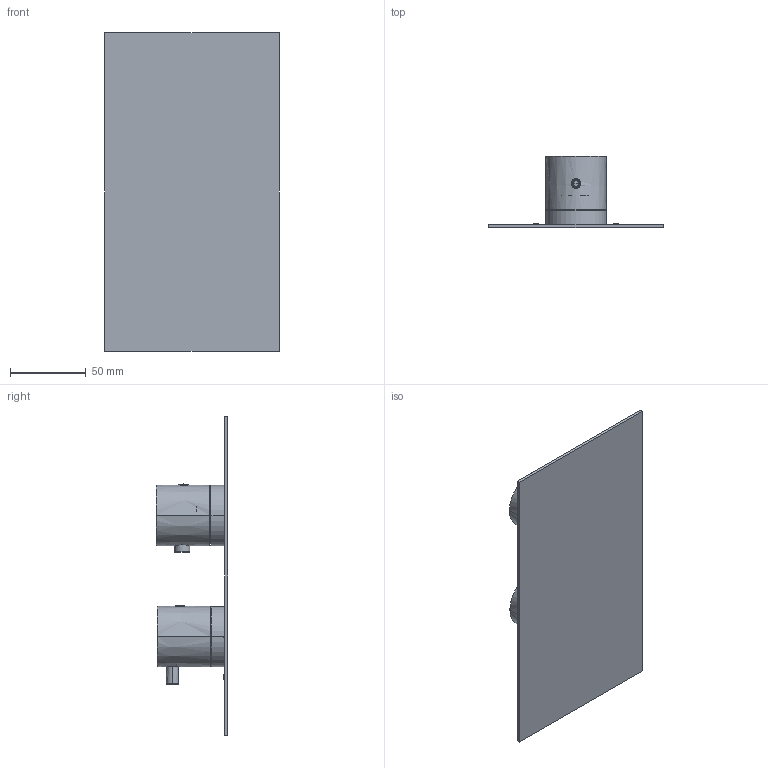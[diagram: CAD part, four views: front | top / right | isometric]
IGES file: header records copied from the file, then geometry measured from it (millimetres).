
Start section:  PTC IGES file: 69712v2.igs
Global section: file name: 69712v2.igs; native system: Creo Parametric by PTC Inc.; preprocessor: 2022014; author: carloff; organization: Unknown; date: 20251120.103738; units: millimetre
Bounding box: 115 x 47 x 210 mm (x, y, z)
Surface area: 67893.2 mm2 (no closed solid volume)
Topology: 0 solids, 0 shells, 139 faces, 674 edges, 668 vertices
Faces by surface type: revolution 87, bspline 52
